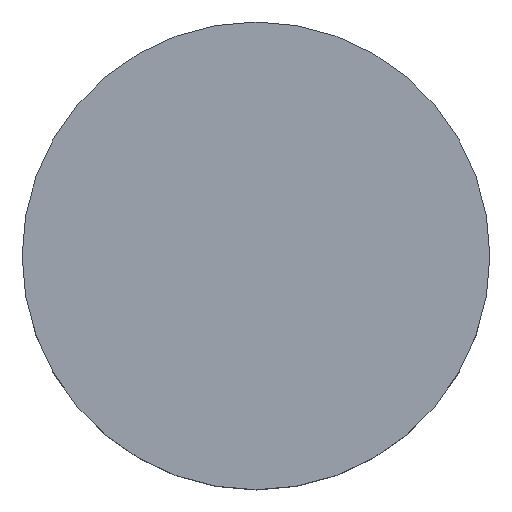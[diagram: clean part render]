
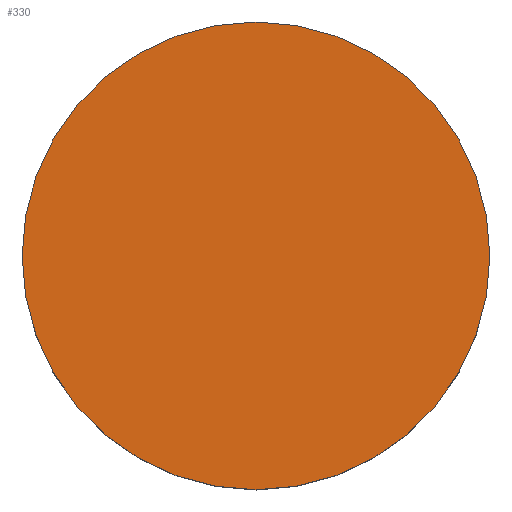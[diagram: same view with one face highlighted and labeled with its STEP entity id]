
A CAD part, top view. The second image highlights one B-rep face of the part: STEP entity #330.
In plain terms, the highlighted planar face has unit normal (0, 0, 1).
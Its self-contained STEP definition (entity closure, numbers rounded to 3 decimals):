
#11=CARTESIAN_POINT('',(0.,0.,0.));
#12=DIRECTION('',(0.,0.,-1.));
#13=DIRECTION('',(1.,0.,0.));
#14=AXIS2_PLACEMENT_3D('',#11,#12,#13);
#20=CARTESIAN_POINT('',(0.,0.,0.));
#21=DIRECTION('',(0.,0.,1.));
#22=DIRECTION('',(1.,0.,0.));
#23=AXIS2_PLACEMENT_3D('',#20,#21,#22);
#243=CARTESIAN_POINT('',(0.78,0.,0.));
#245=VERTEX_POINT('',#243);
#271=CARTESIAN_POINT('',(-0.78,0.,0.));
#273=VERTEX_POINT('',#271);
#321=CARTESIAN_POINT('',(0.,0.,0.));
#322=DIRECTION('',(0.,0.,-1.));
#323=DIRECTION('',(1.,0.,0.));
#324=AXIS2_PLACEMENT_3D('',#321,#322,#323);
#325=PLANE('',#324);
#326=ORIENTED_EDGE('',*,*,#314,.F.);
#327=ORIENTED_EDGE('',*,*,#303,.T.);
#328=EDGE_LOOP('',(#326,#327));
#329=FACE_OUTER_BOUND('',#328,.F.);
#330=ADVANCED_FACE('',(#329),#325,.F.);
#15=CIRCLE('',#14,0.78);
#24=CIRCLE('',#23,0.78);
#303=EDGE_CURVE('',#245,#273,#15,.T.);
#314=EDGE_CURVE('',#245,#273,#24,.T.);
